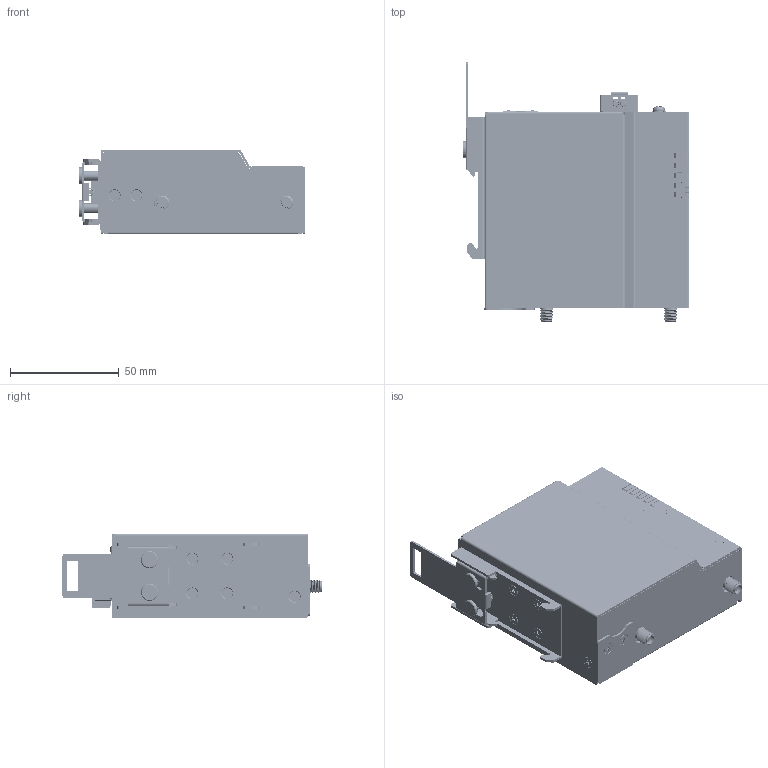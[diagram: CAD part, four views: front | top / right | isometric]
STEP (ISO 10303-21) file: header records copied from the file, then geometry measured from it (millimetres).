
FILE_DESCRIPTION (( 'STEP AP214' ), '1' );
FILE_NAME ('ICR-1602_DIN.STEP', '2024-04-30T03:16:45', ( '' ), ( '' ), 'SwSTEP 2.0', 'SolidWorks 2022', '' );
FILE_SCHEMA (( 'AUTOMOTIVE_DESIGN' ));
Length unit declared in the file: millimetre
Products named in the file (37): Spring din rail for UNO-137; 1960055896S000; assembly din rail kit_30W_DIN RAIL KIT_30W-120H; PRT0002_1_1_2.stp; Riveting_pin for UNO-137; 1990032849T000-LENS_WISE-7000; PRT0005_1_1_2.stp; 90_1_1_2.stp; 1304003673-01_默认; 1652002024_默认; plate_lens_2 PART; 1304003100-01_默认; din rail kit holder_30W; COVER-2P-A_20231212_cover_1602; con10304a_p01_asm; 1935130610_默认; ICR-1602_DIN; con10304a_p01_asm.stp; spacer-lens; PRT0004_1_1_2.stp; pcb_ICR-11XX-20230908; 1931030520-A_默认; BOTTOM-2P-A_20231212_CHASSIS-1642; 1654002618_默认; 1653008935-01_默认; assy_ICR-11XX-C-20230908_ASSY_ICR-1602; ASM0001_ASM_1_1_2_ASM.stp; COVER-SIM; 1600003018-01-20230908_默认; 193B020402_默认; PC LABEL-1642_TOP; 1931030520_默认; 1652000984-20230908_默认; 1654015603-01-e5900039-3d-withemi(1)-20230908; SIM5-06F1-KNM1-01 ; din rail kit hook_30W_din rail kit hook_30W_120H; PRT0003_1_1_2.stp
Assembly tree (59 placements, depth 6):
  ICR-1602_DIN
    assy_ICR-11XX-C-20230908_ASSY_ICR-1602
      pcb_ICR-11XX-20230908
      1652000984-20230908_默认
      1654015603-01-e5900039-3d-withemi(1)-20230908
      con10304a_p01_asm  x2
        con10304a_p01_asm.stp
          ASM0001_ASM_1_1_2_ASM.stp
            90_1_1_2.stp
            PRT0002_1_1_2.stp
            PRT0003_1_1_2.stp
            PRT0004_1_1_2.stp
            PRT0005_1_1_2.stp
      SIM5-06F1-KNM1-01   x2
      1304003673-01_默认  x2
      1304003100-01_默认  x3
      1600003018-01-20230908_默认
      1653008935-01_默认  x2
      1654002618_默认  x4
      1960055896S000
    BOTTOM-2P-A_20231212_CHASSIS-1642
    COVER-2P-A_20231212_cover_1602
    1931030520-A_默认  x6
    assembly din rail kit_30W_DIN RAIL KIT_30W-120H
      din rail kit holder_30W
      Spring din rail for UNO-137
      Riveting_pin for UNO-137  x2
      din rail kit hook_30W_din rail kit hook_30W_120H
    COVER-SIM
    1935130610_默认
    plate_lens_2 PART
    193B020402_默认  x6
    spacer-lens
    1652002024_默认
    1931030520_默认  x4
    PC LABEL-1642_TOP
    1990032849T000-LENS_WISE-7000
Bounding box: 104.1 x 119.1 x 39 mm (x, y, z)
Volume: 54608.9 mm3; surface area: 124742.6 mm2
Topology: 66 solids, 97 shells, 9715 faces, 26370 edges, 17005 vertices
Faces by surface type: plane 4684, bspline 3390, cylinder 1411, cone 146, sphere 42, torus 42
Entity records: 297110 total; most frequent: CARTESIAN_POINT 99564, ORIENTED_EDGE 41272, DIRECTION 30063, EDGE_CURVE 20669, LINE 13805, VECTOR 13805, VERTEX_POINT 13316, EDGE_LOOP 8183
